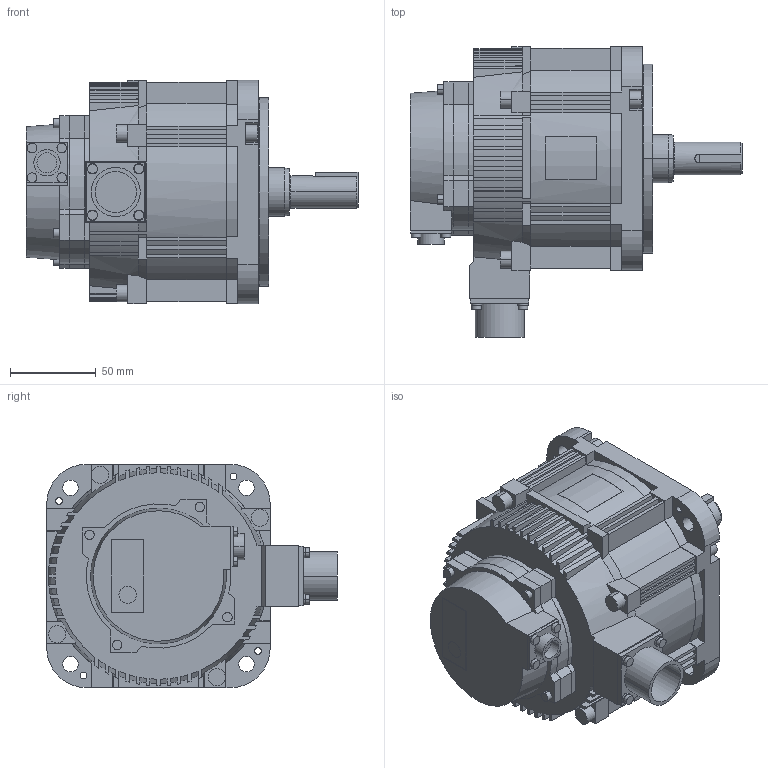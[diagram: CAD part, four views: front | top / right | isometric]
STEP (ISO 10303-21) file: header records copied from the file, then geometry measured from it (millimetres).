
FILE_DESCRIPTION( (''), '2;1');
FILE_NAME ('SGMXG-09AUA61C2.stp','2022-03-02T11:31:15',(''),(''),'spGate 15.6.6','','');
FILE_SCHEMA (('AUTOMOTIVE_DESIGN'));
Length unit declared in the file: millimetre
Products named in the file (3): Assembly; SGMXG-09AUA61C2-prt0; SGMXG-09AUA61C2-prt1
Assembly tree (2 placements, depth 2):
  Assembly
    SGMXG-09AUA61C2-prt0
    SGMXG-09AUA61C2-prt1
Bounding box: 193.2 x 169 x 130 mm (x, y, z)
Volume: 1590432.6 mm3; surface area: 132316 mm2
Topology: 2 solids, 2 shells, 667 faces, 1812 edges, 1196 vertices
Faces by surface type: plane 414, cylinder 188, bspline 65
Entity records: 35609 total; most frequent: CARTESIAN_POINT 4473, ORIENTED_EDGE 3624, DIRECTION 3435, COLOUR_RGB 2481, PRESENTATION_STYLE_ASSIGNMENT 2481, STYLED_ITEM 2481, EDGE_CURVE 1812, DRAUGHTING_PRE_DEFINED_CURVE_FONT 1812
